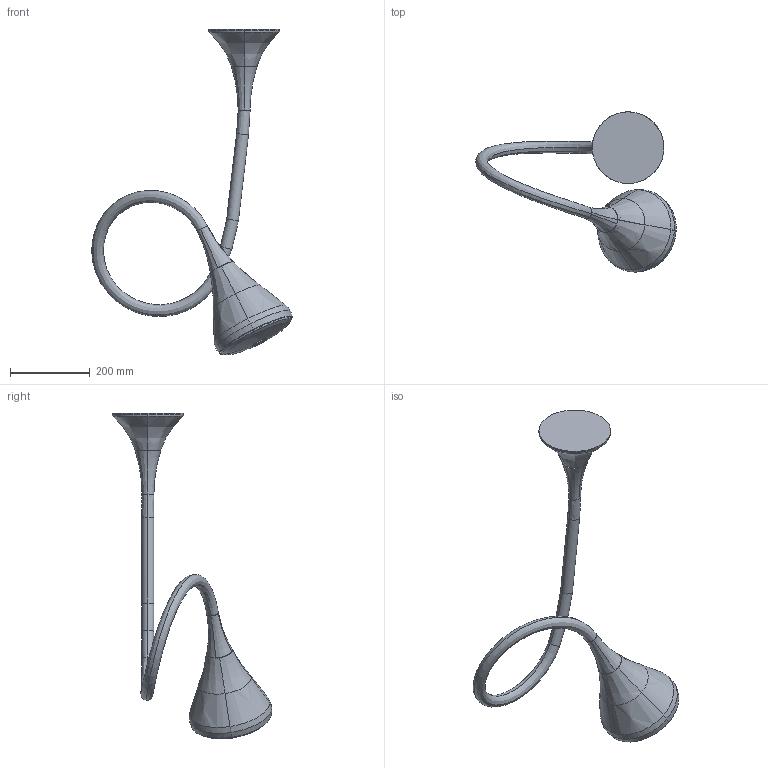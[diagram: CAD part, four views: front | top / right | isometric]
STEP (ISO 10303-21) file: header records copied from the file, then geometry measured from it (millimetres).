
FILE_DESCRIPTION(/* description */ (''),/* implementation_level */ '2;1');
FILE_NAME(/* name */ 'Pipe_wall_ceiling',/* time_stamp */ '2026-08-03T18:00:40+02:00',/* author */ (''),/* organization */ (''),/* preprocessor_version */ 'ST-DEVELOPER v16.5',/* originating_system */ 'Rhino 7.38',/* authorisation */ '');
FILE_SCHEMA (('CONFIG_CONTROL_DESIGN'));
Length unit declared in the file: millimetre
Products named in the file (1): Document
Bounding box: 503.52 x 401.37 x 817.73 mm (x, y, z)
Volume: 2423639.4 mm3; surface area: 377587.9 mm2
Topology: 4 solids, 7 shells, 104 faces, 231 edges, 142 vertices
Faces by surface type: bspline 65, cylinder 24, plane 15
Entity records: 9059 total; most frequent: CARTESIAN_POINT 7642, ORIENTED_EDGE 446, EDGE_CURVE 231, VERTEX_POINT 142, EDGE_LOOP 109, ADVANCED_FACE 104, FACE_OUTER_BOUND 104, B_SPLINE_CURVE_WITH_KNOTS 50
